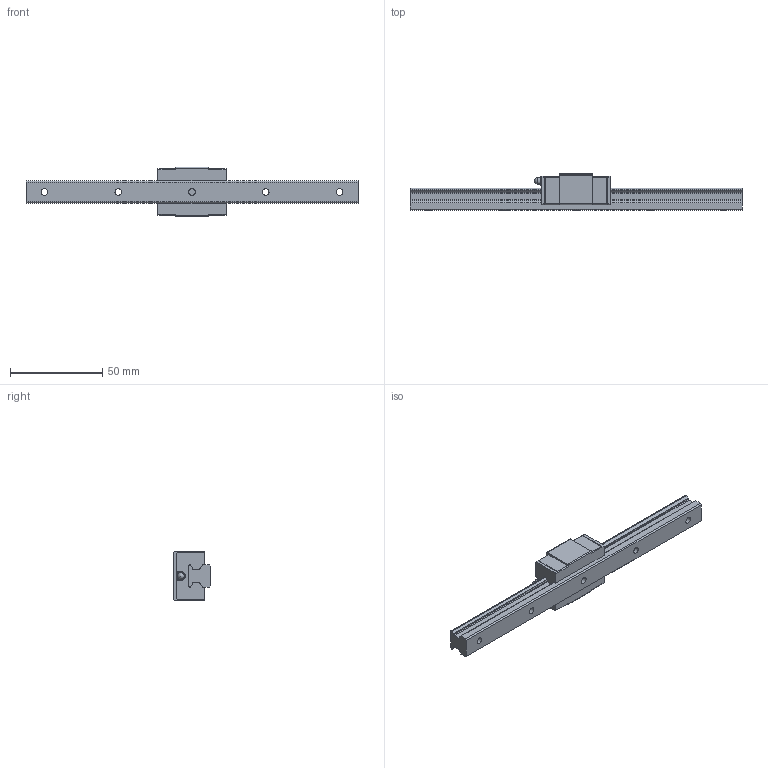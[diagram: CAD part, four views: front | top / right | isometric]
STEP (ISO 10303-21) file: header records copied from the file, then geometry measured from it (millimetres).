
FILE_DESCRIPTION(/* description */ ('STEP AP203'),/* implementation_level */ '2;1');
FILE_NAME(/* name */ 'HRG12SRM1UU-180LHM_G10_0_PB107_71-5_0_0_01',/* time_stamp */ '2024-05-23T11:22:35+02:00',/* author */ ('License CC BY-ND 4.0'),/* organization */ ('CADENAS'),/* preprocessor_version */ 'ST-DEVELOPER v19.3',/* originating_system */ 'PARTsolutions',/* authorisation */ ' ');
FILE_SCHEMA (('CONFIG_CONTROL_DESIGN'));
Length unit declared in the file: millimetre
Products named in the file (4): HRG12SRM1UU-180LHM_G10_0_PB107_71-5_0_0_01; HRG12SRM118010 Rail; HRG12SRMUUPB107 1Slider; HSR-YR-PB107_grease_nipple_joint
Assembly tree (3 placements, depth 2):
  HRG12SRM1UU-180LHM_G10_0_PB107_71-5_0_0_01
    HRG12SRM118010 Rail
    HRG12SRMUUPB107 1Slider
    HSR-YR-PB107_grease_nipple_joint
Bounding box: 180 x 20 x 27 mm (x, y, z)
Volume: 33103.1 mm3; surface area: 15268.9 mm2
Topology: 3 solids, 3 shells, 153 faces, 415 edges, 276 vertices
Faces by surface type: plane 96, cylinder 52, cone 4, sphere 1
Full cylindrical faces by diameter (mm): 3 x3, 3.242 x2, 3.5 x6, 4.5 x1, 6 x5
Entity records: 4784 total; most frequent: CARTESIAN_POINT 816, DIRECTION 807, ORIENTED_EDGE 774, EDGE_CURVE 387, LINE 281, VECTOR 281, VERTEX_POINT 272, AXIS2_PLACEMENT_3D 263
